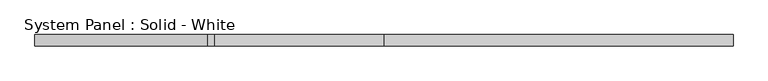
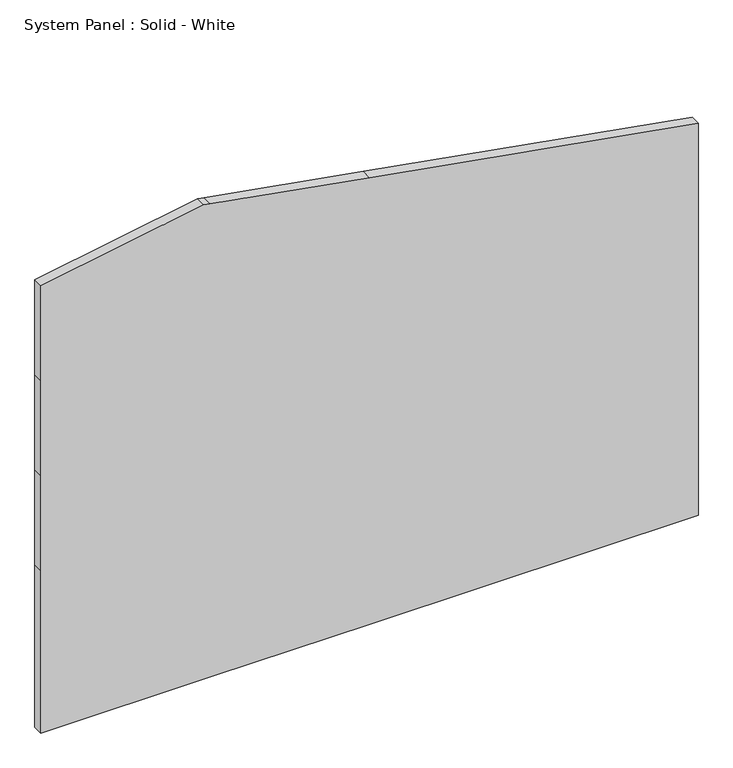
"""IFC4 building model written with IfcOpenShell, lengths in millimetres: plate geometry, System Panel : Solid - White."""

from ifc_helpers import new_model, si_unit, frame, origin, place, context, project, spatial, polyline, outline, extrude, source, transform, mapped, element, save


def system_panel_solid_white_12cb0d74(model_context):
    return source(origin(), model_context, "Body", "SweptSolid", [
        extrude(outline(polyline([(0.0, -1991.3378531), (0.0, -955.0621469), (0.0, 11.3635593), (0.0, 1991.3378531), (1038.2580051, 1991.3378531), (1647.8580051, 1991.3378531), (2257.4580051, 1991.3378531), (2508.9751785, 1991.3378531), (2860.0423651, 0.3369), (3030.449292, -966.0888062), (3037.4624051, -1005.8621469), (2863.6964492, -1991.3378531), (2257.4580051, -1991.3378531), (1647.8580051, -1991.3378531), (1038.2580051, -1991.3378531), (0.0, -1991.3378531)])), frame((0.0, -19.05, 0.0), z_axis=(0.0, 1.0, 0.0), x_axis=(0.0, 0.0, 1.0)), (0.0, 0.0, 1.0), 63.5),
    ])


if __name__ == "__main__":
    model = new_model("IFC4")
    model_context = context("Model", 3, world=origin())
    ifc_project = project(units=[si_unit("LENGTHUNIT", "METRE", prefix="MILLI")], contexts=[model_context])
    site = spatial("IfcSite", under=ifc_project)
    building = spatial("IfcBuilding", under=site)
    placement = place(None, origin())
    system_panel_solid_white_shape = system_panel_solid_white_12cb0d74(model_context)
    element("IfcPlate", 1, ObjectType="System Panel : Solid - White", at=placement, inside=building, context=model_context, shape_type="MappedRepresentation", body=[
        mapped(system_panel_solid_white_shape, transform((0.0, 0.0, 0.0), x_axis=(1.0, 0.0, 0.0), y_axis=(0.0, 1.0, 0.0), z_axis=(0.0, 0.0, 1.0))),
    ])
    save(model, "model.ifc")
